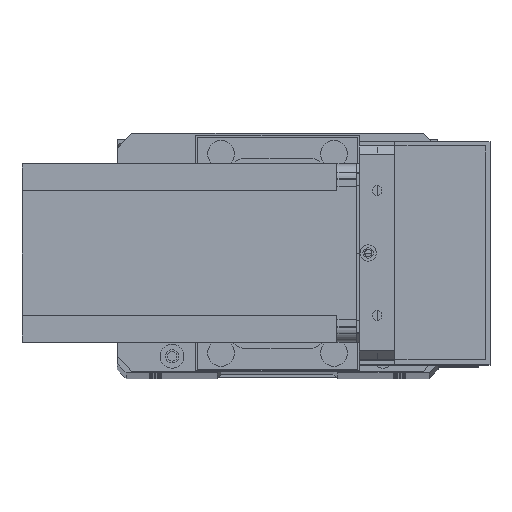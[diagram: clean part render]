
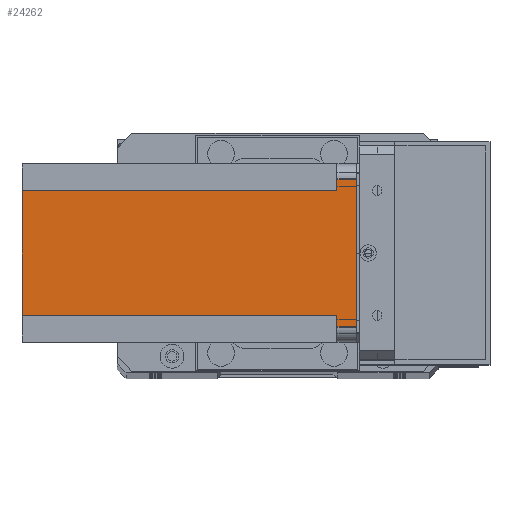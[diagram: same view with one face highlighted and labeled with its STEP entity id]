
A CAD part, top view. The second image highlights one B-rep face of the part: STEP entity #24262.
In plain terms, the highlighted planar face has unit normal (0, 0, 1) as drawn and (1, 0, 0) by its records, which use the part's own axes.
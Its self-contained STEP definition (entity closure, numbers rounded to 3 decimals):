
#130 = VECTOR ( 'NONE', #3980, 1000. ) ;
#312 = DIRECTION ( 'NONE',  ( 0., 0., 1. ) ) ;
#2049 = CARTESIAN_POINT ( 'NONE',  ( 60., 5., -6.5 ) ) ;
#2757 = EDGE_LOOP ( 'NONE', ( #27855, #26691, #3673, #25506, #8093, #11358, #11391, #9643 ) ) ;
#2772 = VERTEX_POINT ( 'NONE', #12462 ) ;
#2859 = DIRECTION ( 'NONE',  ( 0., 0., -1. ) ) ;
#3673 = ORIENTED_EDGE ( 'NONE', *, *, #7572, .F. ) ;
#3734 = CARTESIAN_POINT ( 'NONE',  ( 60., 51., -6.5 ) ) ;
#3980 = DIRECTION ( 'NONE',  ( 0., 1., 0. ) ) ;
#4039 = DIRECTION ( 'NONE',  ( 0., 0., -1. ) ) ;
#4212 = DIRECTION ( 'NONE',  ( 0., 1., 0. ) ) ;
#4568 = EDGE_CURVE ( 'NONE', #2772, #30468, #18112, .T. ) ;
#4620 = EDGE_CURVE ( 'NONE', #16116, #29972, #22889, .T. ) ;
#4934 = VECTOR ( 'NONE', #8912, 1000. ) ;
#4981 = EDGE_CURVE ( 'NONE', #16116, #15188, #12871, .T. ) ;
#5288 = DIRECTION ( 'NONE',  ( 0., -1., 0. ) ) ;
#5832 = EDGE_CURVE ( 'NONE', #8993, #8230, #13555, .T. ) ;
#7322 = CARTESIAN_POINT ( 'NONE',  ( 60., 9., -112.5 ) ) ;
#7421 = PLANE ( 'NONE',  #25238 ) ;
#7572 = EDGE_CURVE ( 'NONE', #8993, #29972, #14560, .T. ) ;
#7578 = VECTOR ( 'NONE', #4212, 1000. ) ;
#8093 = ORIENTED_EDGE ( 'NONE', *, *, #8618, .F. ) ;
#8230 = VERTEX_POINT ( 'NONE', #2049 ) ;
#8503 = DIRECTION ( 'NONE',  ( 0., -1., 0. ) ) ;
#8618 = EDGE_CURVE ( 'NONE', #11474, #8230, #28073, .T. ) ;
#8912 = DIRECTION ( 'NONE',  ( 0., 0., 1. ) ) ;
#8993 = VERTEX_POINT ( 'NONE', #28819 ) ;
#9643 = ORIENTED_EDGE ( 'NONE', *, *, #15207, .F. ) ;
#9667 = CARTESIAN_POINT ( 'NONE',  ( 60., 55., 0. ) ) ;
#9797 = DIRECTION ( 'NONE',  ( 0., 1., 0. ) ) ;
#10538 = CARTESIAN_POINT ( 'NONE',  ( 60., 9., -6.5 ) ) ;
#11358 = ORIENTED_EDGE ( 'NONE', *, *, #19215, .F. ) ;
#11391 = ORIENTED_EDGE ( 'NONE', *, *, #4568, .T. ) ;
#11474 = VERTEX_POINT ( 'NONE', #10538 ) ;
#11656 = VECTOR ( 'NONE', #312, 1000. ) ;
#12462 = CARTESIAN_POINT ( 'NONE',  ( 60., 9., -112.5 ) ) ;
#12871 = LINE ( 'NONE', #24043, #18339 ) ;
#13555 = LINE ( 'NONE', #16881, #19765 ) ;
#14039 = CARTESIAN_POINT ( 'NONE',  ( 60., 51., -112.5 ) ) ;
#14392 = CARTESIAN_POINT ( 'NONE',  ( 60., 0., -112.5 ) ) ;
#14445 = CARTESIAN_POINT ( 'NONE',  ( 60., 55., -6.5 ) ) ;
#14560 = LINE ( 'NONE', #20583, #7578 ) ;
#15188 = VERTEX_POINT ( 'NONE', #3734 ) ;
#15207 = EDGE_CURVE ( 'NONE', #15188, #30468, #17919, .T. ) ;
#15581 = VECTOR ( 'NONE', #8503, 1000. ) ;
#15759 = CARTESIAN_POINT ( 'NONE',  ( 60., 0., -112.5 ) ) ;
#16116 = VERTEX_POINT ( 'NONE', #14445 ) ;
#16163 = FACE_OUTER_BOUND ( 'NONE', #2757, .T. ) ;
#16881 = CARTESIAN_POINT ( 'NONE',  ( 60., 5., -112.5 ) ) ;
#17176 = VECTOR ( 'NONE', #4039, 1000. ) ;
#17919 = LINE ( 'NONE', #20313, #17176 ) ;
#18112 = LINE ( 'NONE', #15759, #130 ) ;
#18339 = VECTOR ( 'NONE', #5288, 1000. ) ;
#19215 = EDGE_CURVE ( 'NONE', #2772, #11474, #24891, .T. ) ;
#19765 = VECTOR ( 'NONE', #2859, 1000. ) ;
#20313 = CARTESIAN_POINT ( 'NONE',  ( 60., 51., -112.5 ) ) ;
#20583 = CARTESIAN_POINT ( 'NONE',  ( 60., 0., 0. ) ) ;
#22889 = LINE ( 'NONE', #22925, #4934 ) ;
#22925 = CARTESIAN_POINT ( 'NONE',  ( 60., 55., -112.5 ) ) ;
#23809 = DIRECTION ( 'NONE',  ( 1., 0., 0. ) ) ;
#24043 = CARTESIAN_POINT ( 'NONE',  ( 60., 60., -6.5 ) ) ;
#24262 = ADVANCED_FACE ( 'NONE', ( #16163 ), #7421, .T. ) ;
#24891 = LINE ( 'NONE', #7322, #11656 ) ;
#25238 = AXIS2_PLACEMENT_3D ( 'NONE', #14392, #23809, #9797 ) ;
#25506 = ORIENTED_EDGE ( 'NONE', *, *, #5832, .T. ) ;
#26691 = ORIENTED_EDGE ( 'NONE', *, *, #4620, .T. ) ;
#27180 = CARTESIAN_POINT ( 'NONE',  ( 60., 0., -6.5 ) ) ;
#27855 = ORIENTED_EDGE ( 'NONE', *, *, #4981, .F. ) ;
#28073 = LINE ( 'NONE', #27180, #15581 ) ;
#28819 = CARTESIAN_POINT ( 'NONE',  ( 60., 5., 0. ) ) ;
#29972 = VERTEX_POINT ( 'NONE', #9667 ) ;
#30468 = VERTEX_POINT ( 'NONE', #14039 ) ;
